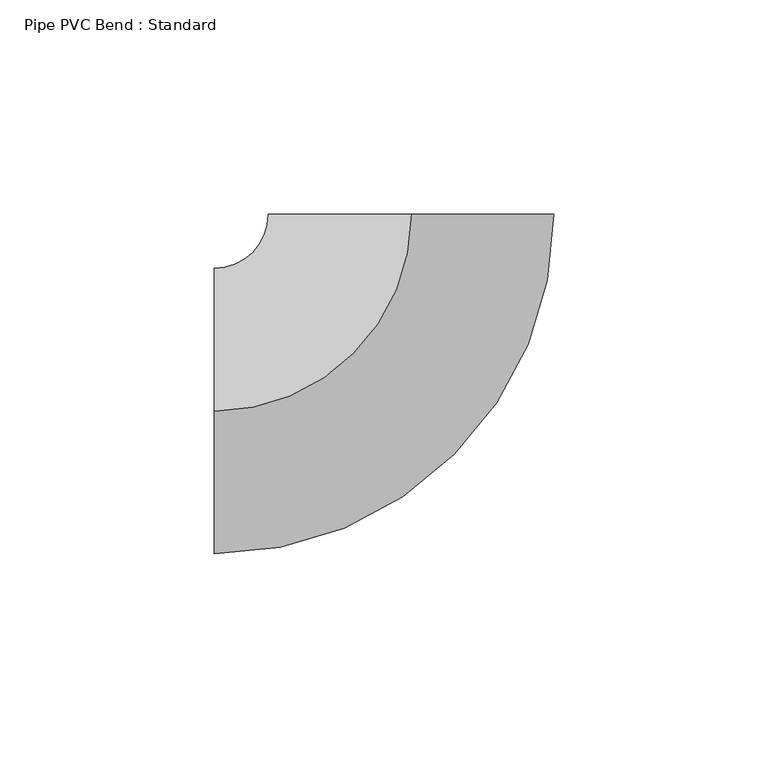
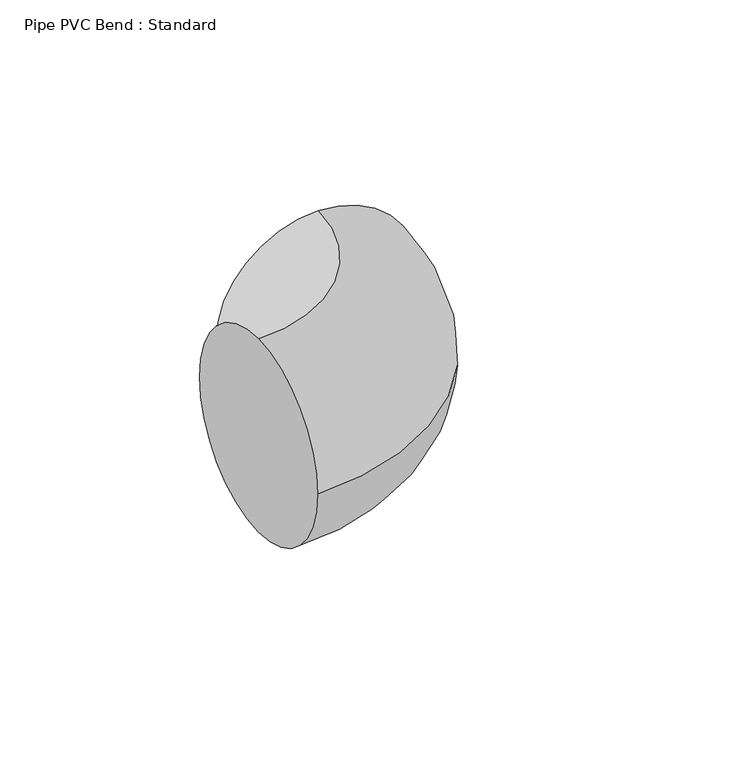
"""IFC4 building model written with IfcOpenShell, lengths in millimetres: pipe fitting geometry, Pipe PVC Bend : Standard."""

from ifc_helpers import new_model, si_unit, point, frame, origin, place, context, project, spatial, circle_curve, ellipse_curve, trimmed, source, transform, mapped, element, save
from ifc_brep_helpers import plane_surface, revolved_surface, advanced_brep


def pipe_pvc_bend_standard_92995d58(model_context):
    return source(origin(), model_context, "Body", "AdvancedBrep", [
        advanced_brep(
        [(-46.0325069, 0.0, 33.3375), (-46.0325069, 33.3375, 0.0), (-46.0325069, 0.0, -33.3375), (-46.0325069, -33.3375, 0.0), (0.0049929, 46.0325066, 33.3375), (33.3424927, 46.0288907, 0.0), (0.0049929, 46.0325066, -33.3375), (-33.3325069, 46.0361225, 0.0)],
        [
            (0, 1, circle_curve(frame((-46.0325069, 0.0, 0.0), z_axis=(-1.0, 0.0, 0.0), x_axis=(0.0, 1.0, 0.0)), 33.3375)),
            (1, 2, circle_curve(frame((-46.0325069, 0.0, 0.0), z_axis=(-1.0, 0.0, 0.0), x_axis=(0.0, 1.0, 0.0)), 33.3375)),
            (2, 3, circle_curve(frame((-46.0325069, 0.0, 0.0), z_axis=(-1.0, 0.0, 0.0), x_axis=(0.0, 1.0, 0.0)), 33.3375)),
            (3, 0, circle_curve(frame((-46.0325069, 0.0, 0.0), z_axis=(-1.0, 0.0, 0.0), x_axis=(0.0, 1.0, 0.0)), 33.3375)),
            (4, 5, circle_curve(frame((0.0049929, 46.0325066, 0.0), z_axis=(0.00010846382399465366, 0.9999999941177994, 0.0), x_axis=(-0.9999999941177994, 0.00010846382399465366, 0.0)), 33.3375)),
            (5, 6, circle_curve(frame((0.0049929, 46.0325066, 0.0), z_axis=(0.00010846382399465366, 0.9999999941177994, 0.0), x_axis=(-0.9999999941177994, 0.00010846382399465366, 0.0)), 33.3375)),
            (6, 7, circle_curve(frame((0.0049929, 46.0325066, 0.0), z_axis=(0.00010846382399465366, 0.9999999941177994, 0.0), x_axis=(-0.9999999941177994, 0.00010846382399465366, 0.0)), 33.3375)),
            (7, 4, circle_curve(frame((0.0049929, 46.0325066, 0.0), z_axis=(0.00010846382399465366, 0.9999999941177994, 0.0), x_axis=(-0.9999999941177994, 0.00010846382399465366, 0.0)), 33.3375)),
            (7, 1, circle_curve(frame((-46.0325069, 46.0375, 0.0), z_axis=(0.0, 0.0, -1.0), x_axis=(0.0, -1.0, 0.0)), 12.7)),
            (0, 4, circle_curve(frame((-46.0325069, 46.0375, 33.3375), z_axis=(0.0, 0.0, 1.0), x_axis=(0.0, -1.0, 0.0)), 46.0375)),
            (6, 2, circle_curve(frame((-46.0325069, 46.0375, -33.3375), z_axis=(0.0, 0.0, -1.0), x_axis=(0.0, -1.0, 0.0)), 46.0375)),
            (5, 3, circle_curve(frame((-46.0325069, 46.0375, 0.0), z_axis=(0.0, 0.0, -1.0), x_axis=(0.0, -1.0, 0.0)), 79.375)),
        ],
        [
            plane_surface(frame((-46.0325069, 0.0, 0.0), z_axis=(-1.0, 0.0, 0.0), x_axis=(0.0, 0.0, 1.0))),
            plane_surface(frame((0.0049929, 46.0325066, 0.0), z_axis=(0.00010846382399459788, 0.9999999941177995, 0.0), x_axis=(0.0, 0.0, 1.0))),
            revolved_surface(trimmed(ellipse_curve(frame((-46.0325069, 0.0, 0.0), z_axis=(-1.0, 0.0, 0.0), x_axis=(0.0, 1.0, 0.0)), 33.3375, 33.3375), [point((-46.0325069, 0.0, 33.3375))], [point((-46.0325069, 33.3375, 0.0))], True, "CARTESIAN"), (-46.0325069, 46.0375, 0.0), (0.0, 0.0, 1.0)),
            revolved_surface(trimmed(ellipse_curve(frame((-46.0325069, 0.0, 0.0), z_axis=(-1.0, 0.0, 0.0), x_axis=(0.0, 1.0, 0.0)), 33.3375, 33.3375), [point((-46.0325069, 33.3375, 0.0))], [point((-46.0325069, 0.0, -33.3375))], True, "CARTESIAN"), (-46.0325069, 46.0375, 0.0), (0.0, 0.0, 1.0)),
            revolved_surface(trimmed(ellipse_curve(frame((-46.0325069, 0.0, 0.0), z_axis=(-1.0, 0.0, 0.0), x_axis=(0.0, 1.0, 0.0)), 33.3375, 33.3375), [point((-46.0325069, 0.0, -33.3375))], [point((-46.0325069, -33.3375, 0.0))], True, "CARTESIAN"), (-46.0325069, 46.0375, 0.0), (0.0, 0.0, 1.0)),
            revolved_surface(trimmed(ellipse_curve(frame((-46.0325069, 0.0, 0.0), z_axis=(-1.0, 0.0, 0.0), x_axis=(0.0, 1.0, 0.0)), 33.3375, 33.3375), [point((-46.0325069, -33.3375, 0.0))], [point((-46.0325069, 0.0, 33.3375))], True, "CARTESIAN"), (-46.0325069, 46.0375, 0.0), (0.0, 0.0, 1.0)),
        ],
        [
            (0, [[1, 2, 3, 4]]),
            (1, [[5, 6, 7, 8]]),
            (2, [[9, -1, 10, -8]]),
            (3, [[11, -2, -9, -7]]),
            (4, [[12, -3, -11, -6]]),
            (5, [[-10, -4, -12, -5]]),
        ],
    ),
        advanced_brep(
        [(-46.0325069, 0.0, 33.3375), (-46.0325069, 33.3375, 0.0), (-46.0325069, 0.0, -33.3375), (-46.0325069, -33.3375, 0.0), (0.0049929, 46.0325066, 33.3375), (33.3424927, 46.0288907, 0.0), (0.0049929, 46.0325066, -33.3375), (-33.3325069, 46.0361225, 0.0)],
        [
            (0, 1, circle_curve(frame((-46.0325069, 0.0, 0.0), z_axis=(-1.0, 0.0, 0.0), x_axis=(0.0, 1.0, 0.0)), 33.3375)),
            (1, 2, circle_curve(frame((-46.0325069, 0.0, 0.0), z_axis=(-1.0, 0.0, 0.0), x_axis=(0.0, 1.0, 0.0)), 33.3375)),
            (2, 3, circle_curve(frame((-46.0325069, 0.0, 0.0), z_axis=(-1.0, 0.0, 0.0), x_axis=(0.0, 1.0, 0.0)), 33.3375)),
            (3, 0, circle_curve(frame((-46.0325069, 0.0, 0.0), z_axis=(-1.0, 0.0, 0.0), x_axis=(0.0, 1.0, 0.0)), 33.3375)),
            (4, 5, circle_curve(frame((0.0049929, 46.0325066, 0.0), z_axis=(0.00010846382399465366, 0.9999999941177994, 0.0), x_axis=(-0.9999999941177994, 0.00010846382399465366, 0.0)), 33.3375)),
            (5, 6, circle_curve(frame((0.0049929, 46.0325066, 0.0), z_axis=(0.00010846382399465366, 0.9999999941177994, 0.0), x_axis=(-0.9999999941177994, 0.00010846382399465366, 0.0)), 33.3375)),
            (6, 7, circle_curve(frame((0.0049929, 46.0325066, 0.0), z_axis=(0.00010846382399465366, 0.9999999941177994, 0.0), x_axis=(-0.9999999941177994, 0.00010846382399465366, 0.0)), 33.3375)),
            (7, 4, circle_curve(frame((0.0049929, 46.0325066, 0.0), z_axis=(0.00010846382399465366, 0.9999999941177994, 0.0), x_axis=(-0.9999999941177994, 0.00010846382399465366, 0.0)), 33.3375)),
            (7, 1, circle_curve(frame((-46.0325069, 46.0375, 0.0), z_axis=(0.0, 0.0, -1.0), x_axis=(0.0, -1.0, 0.0)), 12.7)),
            (0, 4, circle_curve(frame((-46.0325069, 46.0375, 33.3375), z_axis=(0.0, 0.0, 1.0), x_axis=(0.0, -1.0, 0.0)), 46.0375)),
            (6, 2, circle_curve(frame((-46.0325069, 46.0375, -33.3375), z_axis=(0.0, 0.0, -1.0), x_axis=(0.0, -1.0, 0.0)), 46.0375)),
            (5, 3, circle_curve(frame((-46.0325069, 46.0375, 0.0), z_axis=(0.0, 0.0, -1.0), x_axis=(0.0, -1.0, 0.0)), 79.375)),
        ],
        [
            plane_surface(frame((-46.0325069, 0.0, 0.0), z_axis=(-1.0, 0.0, 0.0), x_axis=(0.0, 0.0, 1.0))),
            plane_surface(frame((0.0049929, 46.0325066, 0.0), z_axis=(0.00010846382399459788, 0.9999999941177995, 0.0), x_axis=(0.0, 0.0, 1.0))),
            revolved_surface(trimmed(ellipse_curve(frame((-46.0325069, 0.0, 0.0), z_axis=(-1.0, 0.0, 0.0), x_axis=(0.0, 1.0, 0.0)), 33.3375, 33.3375), [point((-46.0325069, 0.0, 33.3375))], [point((-46.0325069, 33.3375, 0.0))], True, "CARTESIAN"), (-46.0325069, 46.0375, 0.0), (0.0, 0.0, 1.0)),
            revolved_surface(trimmed(ellipse_curve(frame((-46.0325069, 0.0, 0.0), z_axis=(-1.0, 0.0, 0.0), x_axis=(0.0, 1.0, 0.0)), 33.3375, 33.3375), [point((-46.0325069, 33.3375, 0.0))], [point((-46.0325069, 0.0, -33.3375))], True, "CARTESIAN"), (-46.0325069, 46.0375, 0.0), (0.0, 0.0, 1.0)),
            revolved_surface(trimmed(ellipse_curve(frame((-46.0325069, 0.0, 0.0), z_axis=(-1.0, 0.0, 0.0), x_axis=(0.0, 1.0, 0.0)), 33.3375, 33.3375), [point((-46.0325069, 0.0, -33.3375))], [point((-46.0325069, -33.3375, 0.0))], True, "CARTESIAN"), (-46.0325069, 46.0375, 0.0), (0.0, 0.0, 1.0)),
            revolved_surface(trimmed(ellipse_curve(frame((-46.0325069, 0.0, 0.0), z_axis=(-1.0, 0.0, 0.0), x_axis=(0.0, 1.0, 0.0)), 33.3375, 33.3375), [point((-46.0325069, -33.3375, 0.0))], [point((-46.0325069, 0.0, 33.3375))], True, "CARTESIAN"), (-46.0325069, 46.0375, 0.0), (0.0, 0.0, 1.0)),
        ],
        [
            (0, [[1, 2, 3, 4]]),
            (1, [[5, 6, 7, 8]]),
            (2, [[9, -1, 10, -8]]),
            (3, [[11, -2, -9, -7]]),
            (4, [[12, -3, -11, -6]]),
            (5, [[-10, -4, -12, -5]]),
        ],
    ),
    ])


if __name__ == "__main__":
    model = new_model("IFC4")
    model_context = context("Model", 3, world=origin())
    ifc_project = project(units=[si_unit("LENGTHUNIT", "METRE", prefix="MILLI")], contexts=[model_context])
    site = spatial("IfcSite", under=ifc_project)
    building = spatial("IfcBuilding", under=site)
    placement = place(None, origin())
    pipe_pvc_bend_standard_shape = pipe_pvc_bend_standard_92995d58(model_context)
    element("IfcPipeFitting", 1, ObjectType="Pipe PVC Bend : Standard", at=placement, inside=building, context=model_context, shape_type="MappedRepresentation", body=[
        mapped(pipe_pvc_bend_standard_shape, transform((0.0, 0.0, 0.0), x_axis=(1.0, 0.0, 0.0), y_axis=(0.0, 1.0, 0.0), z_axis=(0.0, 0.0, 1.0))),
    ])
    save(model, "model.ifc")
